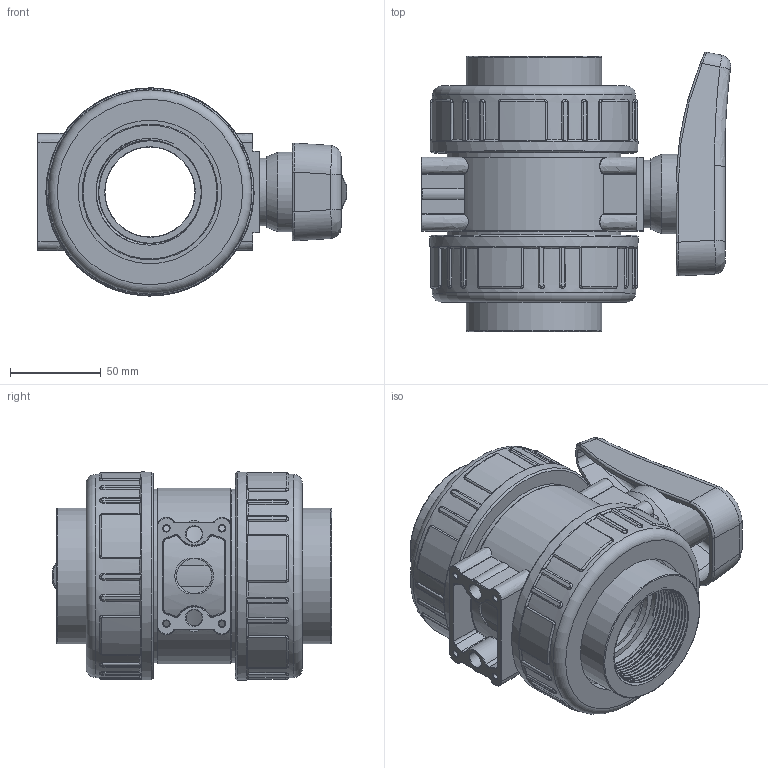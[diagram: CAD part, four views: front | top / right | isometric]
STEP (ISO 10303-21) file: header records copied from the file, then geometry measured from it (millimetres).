
FILE_DESCRIPTION(/* description */ (''),/* implementation_level */ '2;1');
FILE_NAME(/* name */ 'C:\Users\POLYPIPE\Desktop\DATASET INVENTOR\LIBRERIA EFFAST\3D_VALVOLE\3D_VALVOLE A SFERA\3D_BK1\3D_BERBK1E\3D_BERBK1E063G.stp',/* time_stamp */ '2018-01-24T08:55:20+01:00',/* author */ ('POLYPIPE'),/* organization */ (''),/* preprocessor_version */ 'ST-DEVELOPER v16.1',/* originating_system */ 'Autodesk Inventor 2016',/* authorisation */ '');
FILE_SCHEMA (('CONFIG_CONTROL_DESIGN'));
Products named in the file (1): 3D_BERBK1E063G
Bounding box: 170.83 x 154.34 x 115 mm (x, y, z)
Volume: 971542.4 mm3; surface area: 202627.9 mm2
Topology: 3 solids, 4 shells, 691 faces, 1736 edges, 1079 vertices
Faces by surface type: bspline 219, plane 205, cylinder 205, torus 53, cone 5, sphere 4
Full cylindrical faces by diameter (mm): 9 x2, 25.1 x1, 37.4 x1, 44 x1, 49.7 x1, 50 x2, 50.3 x1, 56.656 x2, 75 x2, 79.3 x2, 89 x2, 95.9 x2, 96.5 x2, 112.4 x2, 115 x2
Entity records: 76141 total; most frequent: CARTESIAN_POINT 60199, ORIENTED_EDGE 3344, DIRECTION 2807, EDGE_CURVE 1670, AXIS2_PLACEMENT_3D 1091, VERTEX_POINT 1064, EDGE_LOOP 774, STYLED_ITEM 694
